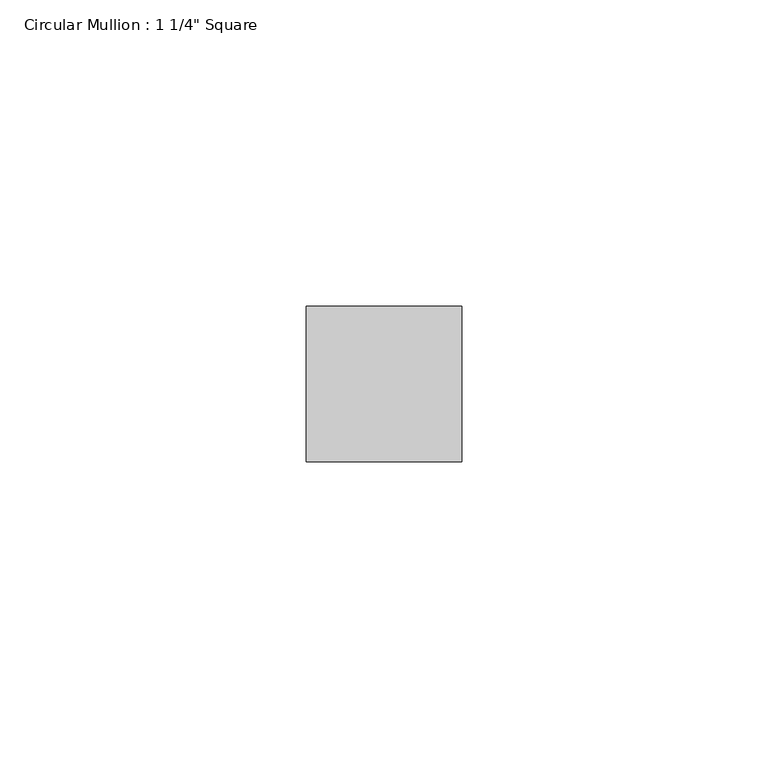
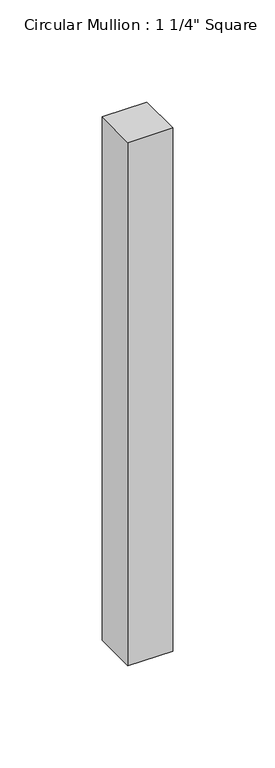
"""IFC4 building model written with IfcOpenShell, lengths in millimetres: member geometry."""

from ifc_helpers import new_model, si_unit, frame, origin, place, context, project, spatial, polyline, outline, extrude, source, transform, mapped, element, save


def member_704305d1(model_context):
    return source(origin(), model_context, "Body", "SweptSolid", [
        extrude(outline(polyline([(0.0, 12.7), (0.0, -12.7), (-25.4, -12.7), (-25.4, 12.7), (0.0, 12.7)])), frame((0.0, 0.0, -312.9370874), z_axis=(0.0, 0.0, 1.0), x_axis=(1.0, 0.0, 0.0)), (0.0, 0.0, 1.0), 312.9370874),
    ])


if __name__ == "__main__":
    model = new_model("IFC4")
    model_context = context("Model", 3, world=origin())
    ifc_project = project(units=[si_unit("LENGTHUNIT", "METRE", prefix="MILLI")], contexts=[model_context])
    site = spatial("IfcSite", under=ifc_project)
    building = spatial("IfcBuilding", under=site)
    placement = place(None, origin())
    member_shape = member_704305d1(model_context)
    element("IfcMember", 1, ObjectType="Circular Mullion : 1 1/4\" Square", at=placement, inside=building, context=model_context, shape_type="MappedRepresentation", body=[
        mapped(member_shape, transform((0.0, 0.0, 0.0), x_axis=(1.0, 0.0, 0.0), y_axis=(0.0, 1.0, 0.0), z_axis=(0.0, 0.0, 1.0))),
    ])
    save(model, "model.ifc")
